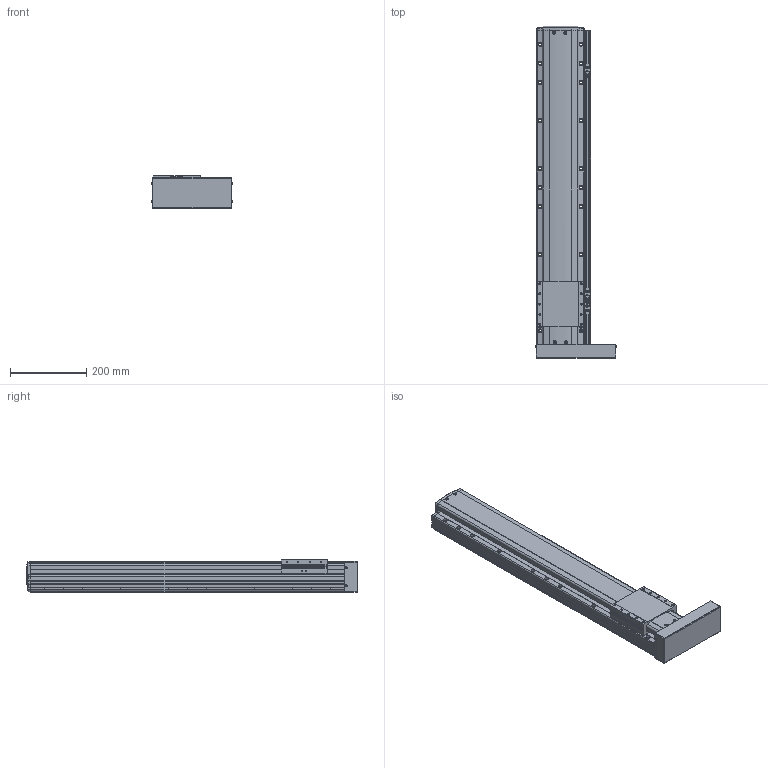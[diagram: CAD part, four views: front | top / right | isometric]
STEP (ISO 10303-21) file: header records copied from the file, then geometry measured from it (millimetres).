
FILE_DESCRIPTION(('STEP AP214'),'1');
FILE_NAME('Z:/Web/3D/PSA125/STP/PSA125-600 (3D)/PSA125ㅁㅁ-600PR+3SR.stp','2014-06-23T03:43:58',(' '),(' '),'Spatial InterOp 3D',' ',' ');
FILE_SCHEMA(('automotive_design'));
Length unit declared in the file: millimetre
Products named in the file (41): 스크루 : Round - M4.0 x 10.0; RRCV-PA120; SLIDE; BASE; FRCV-PA120-1(기준 뿔 제거); RR1500; 스크루 : Round - M4.0 x 6.0; 너트 : Square - M10.0 x 220.7419; BTCV - 60A; 스크루 : Round - M3.0 x 6.0; EE-SX674; SBK-SX674-352; M3.0 x 6.0; SRL-16x17-380L; SGD-PA95; 스크루 : Round - M3.0 x 8.0
Bounding box: 212.13 x 868.6 x 86 mm (x, y, z)
Volume: 7681716.7 mm3; surface area: 730123.3 mm2
Topology: 41 solids, 41 shells, 2475 faces, 6593 edges, 4226 vertices
Faces by surface type: plane 1411, cylinder 700, cone 244, sphere 64, bspline 31, torus 25
Entity records: 98868 total; most frequent: CARTESIAN_POINT 16051, DIRECTION 13177, ORIENTED_EDGE 12910, EDGE_CURVE 6455, AXIS2_PLACEMENT_3D 4413, LINE 4351, VECTOR 4351, VERTEX_POINT 4226
